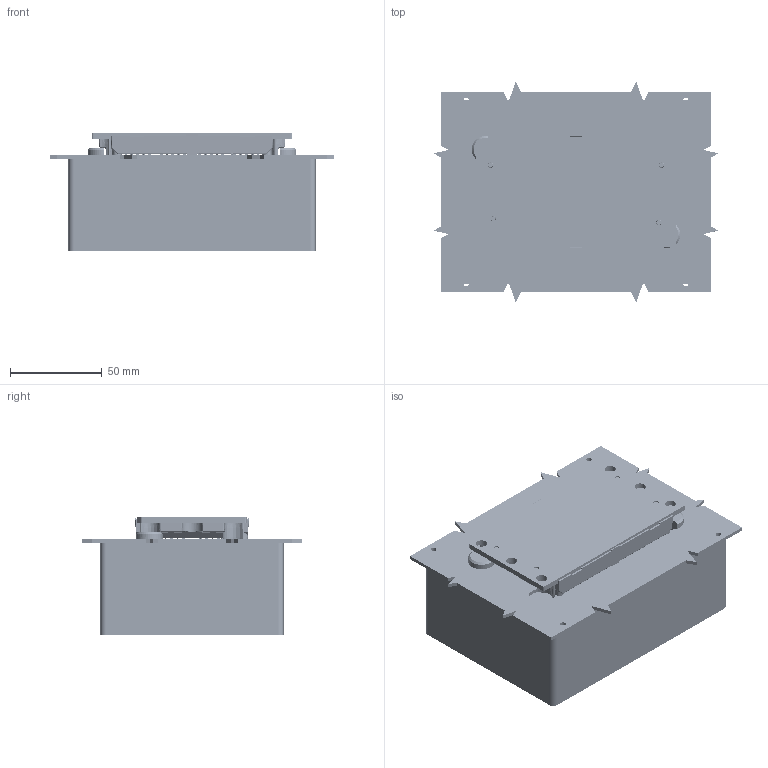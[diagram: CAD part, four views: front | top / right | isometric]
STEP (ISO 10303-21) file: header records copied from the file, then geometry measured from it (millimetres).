
FILE_DESCRIPTION(/* description */ ('Unknown','CAx-IF Rec.Pracs.---Representation and Presentation of Product Manufacturing Information (PMI)---4.0---2014-10-13','CAx-IF Rec.Pracs.---3D Tessellated Geometry---0.4---2014-09-14','2;1'),/* implementation_level */ '2;1');
FILE_NAME(/* name */ 'flowE3BP_Bottom',/* time_stamp */ '2026-01-13T16:58:01+01:00',/* author */ ('Unknown'),/* organization */ ('Unknown'),/* preprocessor_version */ 'ST-DEVELOPER v20',/* originating_system */ 'Solid Edge',/* authorisation */ 'Unknown');
FILE_SCHEMA (('AP242_MANAGED_MODEL_BASED_3D_ENGINEERING_MIM_LF { 1 0 10303 442 1 1 4 }'));
Products named in the file (5): E3BP_press-in_tool; FlowE3BP-4T12T-QS-01-OL; PCB_w_holes; support_block; poz_pin
Assembly tree (5 placements, depth 2):
  E3BP_press-in_tool
    FlowE3BP-4T12T-QS-01-OL
    PCB_w_holes
    support_block
    poz_pin  x2
Bounding box: 155.26 x 120.37 x 64.1 mm (x, y, z)
Volume: 757700.9 mm3; surface area: 116157.9 mm2
Topology: 5 solids, 5 shells, 10751 faces, 29386 edges, 19038 vertices
Faces by surface type: plane 6956, cylinder 1964, torus 1220, bspline 450, cone 133, sphere 28
Full cylindrical faces by diameter (mm): 1.3 x96, 2.6 x4, 3 x4, 3.1 x8, 6 x8, 14.5 x8
Entity records: 416261 total; most frequent: CARTESIAN_POINT 66905, ORIENTED_EDGE 58368, DIRECTION 56028, EDGE_CURVE 29184, LINE 20866, VECTOR 20866, VERTEX_POINT 19000, AXIS2_PLACEMENT_3D 17581
